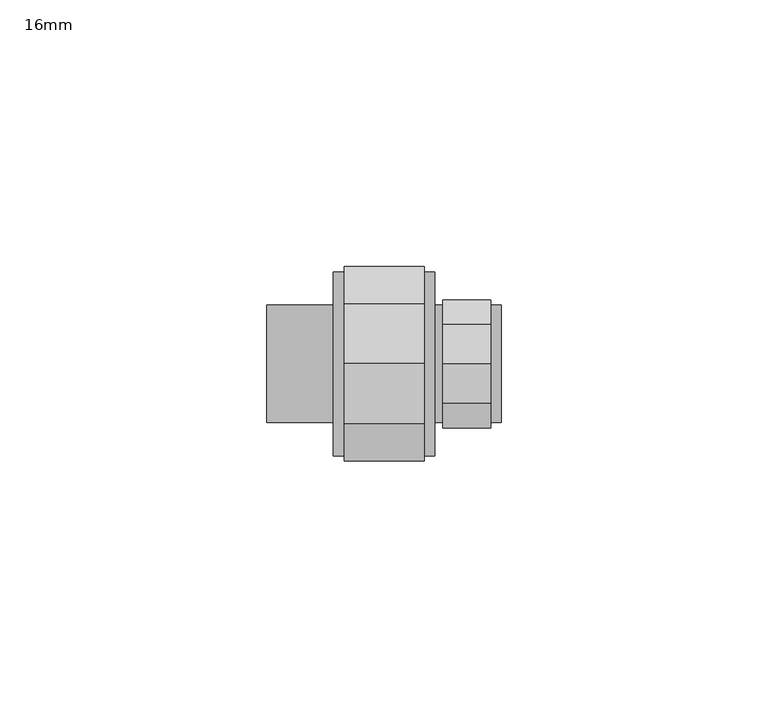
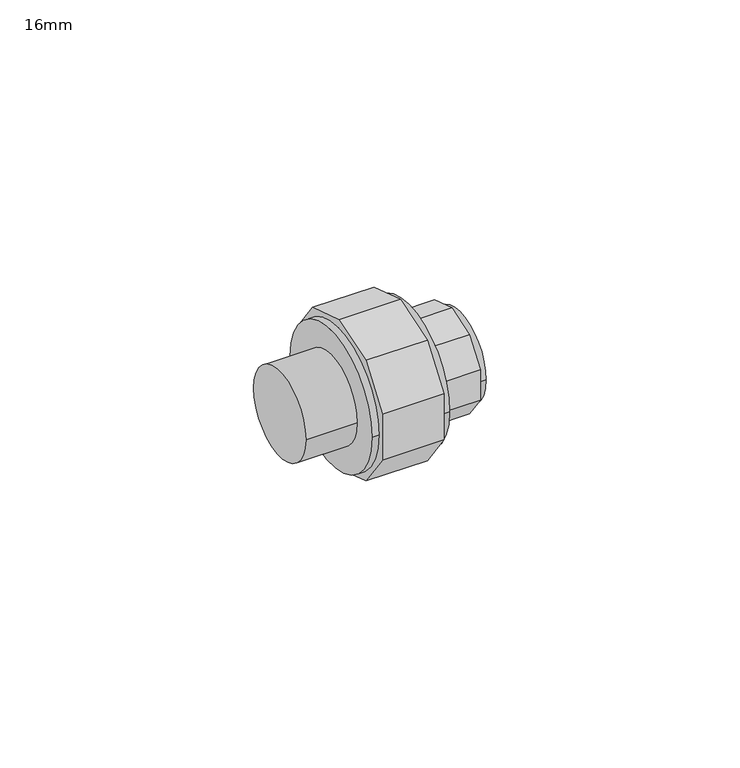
"""IFC4 building model written with IfcOpenShell, lengths in millimetres: pipe fitting geometry, PipeFitting_HTA_CPVC_3PieceUnions_CPVC : 16mm."""

from ifc_helpers import new_model, si_unit, point, frame, origin, origin_2d, place, context, project, spatial, polyline, circle_curve, trimmed, segment, composite_curve, outline, extrude, source, transform, mapped, element, save


def pipe_fitting_16mm_9fa1f050(model_context):
    return source(origin(), model_context, "Body", "SweptSolid", [
        extrude(outline(polyline([(7.4164079, 10.2078097), (12.0, 3.8990364), (12.0, -3.8990364), (7.4164079, -10.2078097), (0.0, -12.6175467), (-7.4164079, -10.2078097), (-12.0, -3.8990364), (-12.0, 3.8990364), (-7.4164079, 10.2078097), (0.0, 12.6175467), (7.4164079, 10.2078097)])), frame((11.0, 0.0, 0.0), z_axis=(1.0, 0.0, 0.0), x_axis=(0.0, 1.0, 0.0)), (0.0, 0.0, 1.0), 9.0),
        extrude(outline(composite_curve([segment(trimmed(circle_curve(origin_2d(), 11.0), [point((-11.0, 0.0))], [point((11.0, 0.0))], False, "CARTESIAN"), True, "CONTINUOUS"), segment(trimmed(circle_curve(origin_2d(), 11.0), [point((11.0, 0.0))], [point((-11.0, 0.0))], False, "CARTESIAN"), True, "CONTINUOUS")], self_intersect=False)), frame((7.0, 0.0, 0.0), z_axis=(1.0, 0.0, 0.0), x_axis=(0.0, 1.0, 0.0)), (0.0, 0.0, 1.0), 15.0),
        extrude(outline(composite_curve([segment(trimmed(circle_curve(origin_2d(), 11.0), [point((-11.0, 0.0))], [point((11.0, 0.0))], False, "CARTESIAN"), True, "CONTINUOUS"), segment(trimmed(circle_curve(origin_2d(), 11.0), [point((11.0, 0.0))], [point((-11.0, 0.0))], False, "CARTESIAN"), True, "CONTINUOUS")], self_intersect=False)), frame((-22.0, 0.0, 0.0), z_axis=(1.0, 0.0, 0.0), x_axis=(0.0, 1.0, 0.0)), (0.0, 0.0, 1.0), 12.5),
        extrude(outline(polyline([(11.2791203, 15.5243773), (18.25, 5.9297845), (18.25, -5.9297845), (11.2791203, -15.5243773), (0.0, -19.1891856), (-11.2791203, -15.5243773), (-18.25, -5.9297845), (-18.25, 5.9297845), (-11.2791203, 15.5243773), (0.0, 19.1891856), (11.2791203, 15.5243773)])), frame((-7.5, 0.0, 0.0), z_axis=(1.0, 0.0, 0.0), x_axis=(0.0, 1.0, 0.0)), (0.0, 0.0, 1.0), 15.0),
        extrude(outline(composite_curve([segment(trimmed(circle_curve(origin_2d(), 17.25), [point((-17.25, 0.0))], [point((17.25, 0.0))], False, "CARTESIAN"), True, "CONTINUOUS"), segment(trimmed(circle_curve(origin_2d(), 17.25), [point((17.25, 0.0))], [point((-17.25, 0.0))], False, "CARTESIAN"), True, "CONTINUOUS")], self_intersect=False)), frame((-9.5, 0.0, 0.0), z_axis=(1.0, 0.0, 0.0), x_axis=(0.0, 1.0, 0.0)), (0.0, 0.0, 1.0), 19.0),
    ])


if __name__ == "__main__":
    model = new_model("IFC4")
    model_context = context("Model", 3, world=origin())
    ifc_project = project(units=[si_unit("LENGTHUNIT", "METRE", prefix="MILLI")], contexts=[model_context])
    site = spatial("IfcSite", under=ifc_project)
    building = spatial("IfcBuilding", under=site)
    placement = place(None, origin())
    pipe_fitting_16mm_shape = pipe_fitting_16mm_9fa1f050(model_context)
    element("IfcPipeFitting", 1, ObjectType="PipeFitting_HTA_CPVC_3PieceUnions_CPVC : 16mm", at=placement, inside=building, context=model_context, shape_type="MappedRepresentation", body=[
        mapped(pipe_fitting_16mm_shape, transform((0.0, 0.0, 0.0), x_axis=(1.0, 0.0, 0.0), y_axis=(0.0, 1.0, 0.0), z_axis=(0.0, 0.0, 1.0))),
    ])
    save(model, "model.ifc")
